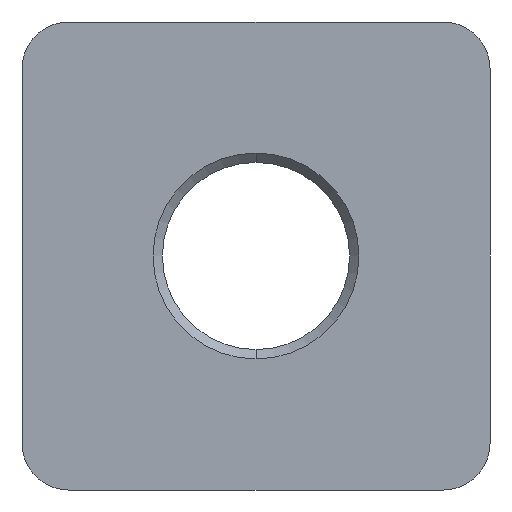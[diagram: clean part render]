
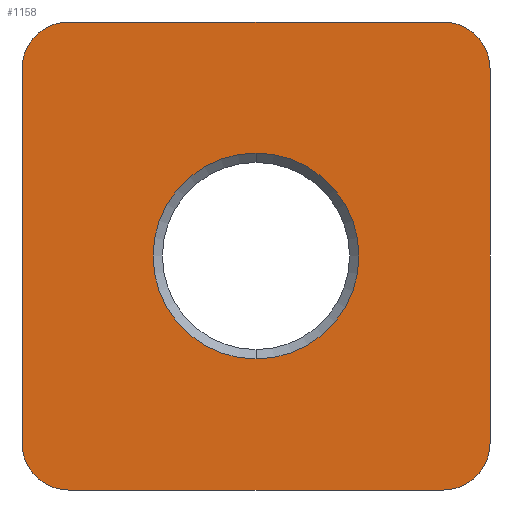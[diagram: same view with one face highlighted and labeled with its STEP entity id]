
A CAD part, front view. The second image highlights one B-rep face of the part: STEP entity #1158.
In plain terms, the highlighted planar face has unit normal (0, -1, 0).
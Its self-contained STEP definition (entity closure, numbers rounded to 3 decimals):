
#27 = EDGE_CURVE ( 'NONE', #1116, #316, #360, .T. ) ;
#55 = VERTEX_POINT ( 'NONE', #381 ) ;
#59 = ORIENTED_EDGE ( 'NONE', *, *, #1161, .F. ) ;
#60 = ORIENTED_EDGE ( 'NONE', *, *, #1105, .F. ) ;
#64 = EDGE_CURVE ( 'NONE', #316, #55, #431, .T. ) ;
#66 = VERTEX_POINT ( 'NONE', #427 ) ;
#72 = ORIENTED_EDGE ( 'NONE', *, *, #223, .F. ) ;
#223 = EDGE_CURVE ( 'NONE', #224, #234, #688, .T. ) ;
#224 = VERTEX_POINT ( 'NONE', #683 ) ;
#234 = VERTEX_POINT ( 'NONE', #664 ) ;
#246 = VERTEX_POINT ( 'NONE', #707 ) ;
#265 = VERTEX_POINT ( 'NONE', #729 ) ;
#272 = EDGE_CURVE ( 'NONE', #234, #265, #785, .T. ) ;
#283 = EDGE_CURVE ( 'NONE', #246, #1116, #767, .T. ) ;
#316 = VERTEX_POINT ( 'NONE', #798 ) ;
#357 = DIRECTION ( 'NONE',  ( 0., 0., 1. ) ) ;
#358 = DIRECTION ( 'NONE',  ( 0., 1., 0. ) ) ;
#359 = AXIS2_PLACEMENT_3D ( 'NONE', #364, #358, #357 ) ;
#360 = CIRCLE ( 'NONE', #359, 5. ) ;
#364 = CARTESIAN_POINT ( 'NONE',  ( 20., 0., 20. ) ) ;
#381 = CARTESIAN_POINT ( 'NONE',  ( 25., 0., -20. ) ) ;
#427 = CARTESIAN_POINT ( 'NONE',  ( 20., 0., -25. ) ) ;
#428 = DIRECTION ( 'NONE',  ( 0., 0., -1. ) ) ;
#429 = VECTOR ( 'NONE', #428, 1000. ) ;
#430 = CARTESIAN_POINT ( 'NONE',  ( 25., 0., 20. ) ) ;
#431 = LINE ( 'NONE', #430, #429 ) ;
#664 = CARTESIAN_POINT ( 'NONE',  ( -25., 0., -20. ) ) ;
#683 = CARTESIAN_POINT ( 'NONE',  ( -20., 0., -25. ) ) ;
#684 = DIRECTION ( 'NONE',  ( 0., 0., 1. ) ) ;
#685 = DIRECTION ( 'NONE',  ( 0., 1., 0. ) ) ;
#686 = CARTESIAN_POINT ( 'NONE',  ( -20., 0., -20. ) ) ;
#687 = AXIS2_PLACEMENT_3D ( 'NONE', #686, #685, #684 ) ;
#688 = CIRCLE ( 'NONE', #687, 5. ) ;
#707 = CARTESIAN_POINT ( 'NONE',  ( -20., 0., 25. ) ) ;
#729 = CARTESIAN_POINT ( 'NONE',  ( -25., 0., 20. ) ) ;
#764 = DIRECTION ( 'NONE',  ( 1., 0., 0. ) ) ;
#765 = VECTOR ( 'NONE', #764, 1000. ) ;
#766 = CARTESIAN_POINT ( 'NONE',  ( -20., 0., 25. ) ) ;
#767 = LINE ( 'NONE', #766, #765 ) ;
#782 = DIRECTION ( 'NONE',  ( 0., 0., 1. ) ) ;
#783 = VECTOR ( 'NONE', #782, 1000. ) ;
#784 = CARTESIAN_POINT ( 'NONE',  ( -25., 0., 20. ) ) ;
#785 = LINE ( 'NONE', #784, #783 ) ;
#798 = CARTESIAN_POINT ( 'NONE',  ( 25., 0., 20. ) ) ;
#870 = DIRECTION ( 'NONE',  ( -1., 0., 0. ) ) ;
#871 = VECTOR ( 'NONE', #870, 1000. ) ;
#872 = CARTESIAN_POINT ( 'NONE',  ( -20., 0., -25. ) ) ;
#873 = LINE ( 'NONE', #872, #871 ) ;
#876 = CARTESIAN_POINT ( 'NONE',  ( 0., 0., 11. ) ) ;
#902 = CARTESIAN_POINT ( 'NONE',  ( 20., 0., 25. ) ) ;
#910 = DIRECTION ( 'NONE',  ( 0., 0., -1. ) ) ;
#911 = DIRECTION ( 'NONE',  ( 0., 1., 0. ) ) ;
#912 = CARTESIAN_POINT ( 'NONE',  ( -20., 0., 20. ) ) ;
#913 = AXIS2_PLACEMENT_3D ( 'NONE', #912, #911, #910 ) ;
#914 = CIRCLE ( 'NONE', #913, 5. ) ;
#916 = DIRECTION ( 'NONE',  ( 0., 0., 1. ) ) ;
#917 = DIRECTION ( 'NONE',  ( 0., 1., 0. ) ) ;
#918 = CARTESIAN_POINT ( 'NONE',  ( 0., 0., 0. ) ) ;
#919 = AXIS2_PLACEMENT_3D ( 'NONE', #918, #917, #916 ) ;
#925 = CIRCLE ( 'NONE', #919, 11. ) ;
#945 = DIRECTION ( 'NONE',  ( 0., 0., 1. ) ) ;
#946 = DIRECTION ( 'NONE',  ( 0., 1., 0. ) ) ;
#947 = CARTESIAN_POINT ( 'NONE',  ( 0., 0., 0. ) ) ;
#948 = AXIS2_PLACEMENT_3D ( 'NONE', #947, #946, #945 ) ;
#949 = CIRCLE ( 'NONE', #948, 11. ) ;
#950 = DIRECTION ( 'NONE',  ( 0., 0., -1. ) ) ;
#951 = DIRECTION ( 'NONE',  ( 0., 1., 0. ) ) ;
#952 = AXIS2_PLACEMENT_3D ( 'NONE', #957, #951, #950 ) ;
#953 = CIRCLE ( 'NONE', #952, 5. ) ;
#954 = DIRECTION ( 'NONE',  ( 0., 0., 1. ) ) ;
#955 = DIRECTION ( 'NONE',  ( 0., 1., 0. ) ) ;
#956 = CARTESIAN_POINT ( 'NONE',  ( -20., 0., -20. ) ) ;
#957 = CARTESIAN_POINT ( 'NONE',  ( 20., 0., -20. ) ) ;
#958 = AXIS2_PLACEMENT_3D ( 'NONE', #956, #955, #954 ) ;
#959 = PLANE ( 'NONE',  #958 ) ;
#960 = FACE_OUTER_BOUND ( 'NONE', #1159, .T. ) ;
#961 = FACE_BOUND ( 'NONE', #1155, .T. ) ;
#972 = CARTESIAN_POINT ( 'NONE',  ( 0., 0., -11. ) ) ;
#1079 = ORIENTED_EDGE ( 'NONE', *, *, #272, .F. ) ;
#1081 = ORIENTED_EDGE ( 'NONE', *, *, #1112, .F. ) ;
#1082 = ORIENTED_EDGE ( 'NONE', *, *, #283, .F. ) ;
#1101 = VERTEX_POINT ( 'NONE', #876 ) ;
#1105 = EDGE_CURVE ( 'NONE', #66, #224, #873, .T. ) ;
#1112 = EDGE_CURVE ( 'NONE', #265, #246, #914, .T. ) ;
#1116 = VERTEX_POINT ( 'NONE', #902 ) ;
#1144 = EDGE_CURVE ( 'NONE', #1146, #1101, #925, .T. ) ;
#1146 = VERTEX_POINT ( 'NONE', #972 ) ;
#1153 = ORIENTED_EDGE ( 'NONE', *, *, #64, .F. ) ;
#1154 = ORIENTED_EDGE ( 'NONE', *, *, #27, .F. ) ;
#1155 = EDGE_LOOP ( 'NONE', ( #1165, #1164 ) ) ;
#1158 = ADVANCED_FACE ( 'NONE', ( #961, #960 ), #959, .F. ) ;
#1159 = EDGE_LOOP ( 'NONE', ( #72, #60, #59, #1153, #1154, #1082, #1081, #1079 ) ) ;
#1161 = EDGE_CURVE ( 'NONE', #55, #66, #953, .T. ) ;
#1162 = EDGE_CURVE ( 'NONE', #1101, #1146, #949, .T. ) ;
#1164 = ORIENTED_EDGE ( 'NONE', *, *, #1162, .T. ) ;
#1165 = ORIENTED_EDGE ( 'NONE', *, *, #1144, .T. ) ;
